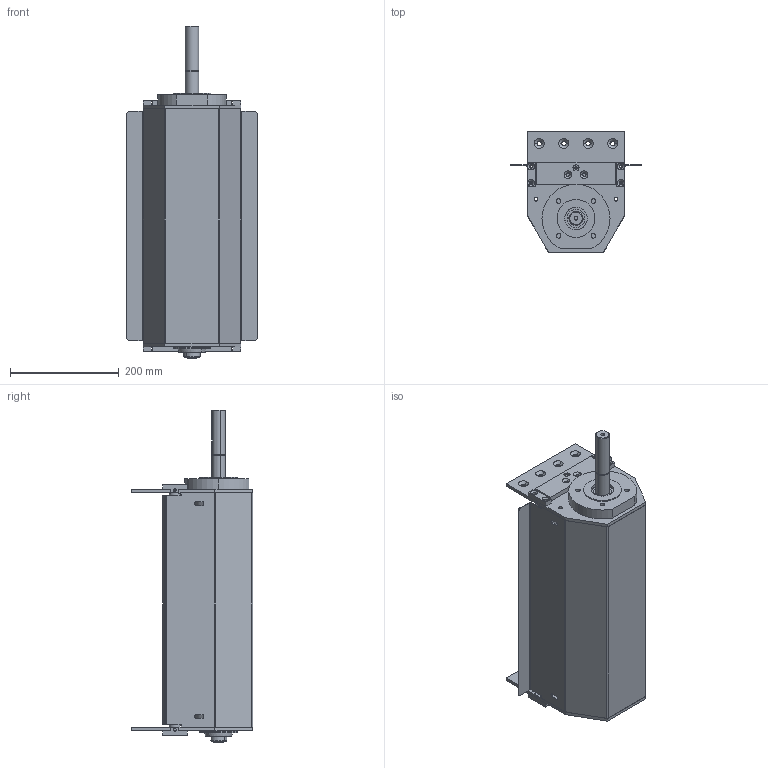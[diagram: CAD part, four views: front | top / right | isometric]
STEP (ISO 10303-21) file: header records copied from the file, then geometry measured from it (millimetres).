
FILE_DESCRIPTION (( 'STEP AP203' ), '1' );
FILE_NAME ('084.050.KCS.49.STEP', '2015-09-03T09:58:27', ( '' ), ( '' ), 'SwSTEP 2.0', 'SolidWorks 2012', '' );
FILE_SCHEMA (( 'CONFIG_CONTROL_DESIGN' ));
Length unit declared in the file: millimetre
Products named in the file (1): 084.050.KCS.49
Bounding box: 240 x 223 x 610 mm (x, y, z)
Surface area: 874308.5 mm2 (no closed solid volume)
Topology: 0 solids, 28 shells, 412 faces, 1428 edges, 1032 vertices
Faces by surface type: cylinder 179, plane 161, cone 58, torus 10, sphere 4
Entity records: 15756 total; most frequent: CARTESIAN_POINT 2933, DIRECTION 2798, ORIENTED_EDGE 2270, EDGE_CURVE 1424, VERTEX_POINT 1030, AXIS2_PLACEMENT_3D 963, VECTOR 872, LINE 872
